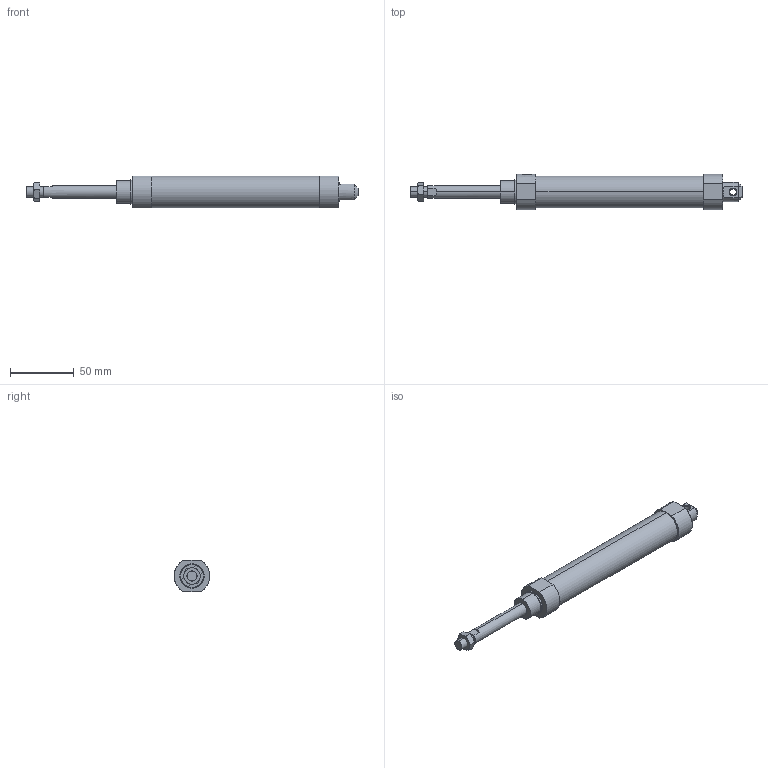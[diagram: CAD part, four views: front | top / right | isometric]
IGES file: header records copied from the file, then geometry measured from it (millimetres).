
Start section: SolidWorks IGES file using analytic representation for surfaces
Global section: file name: C:\Users\Toshiba\Desktop\J#0-20-50-C.IGS; native system: SolidWorks 2014; preprocessor: SolidWorks 2014; author: Toshiba; date: 160308.142815; units: millimetre
Bounding box: 261 x 28 x 25 mm (x, y, z)
Surface area: 18870 mm2 (no closed solid volume)
Topology: 0 solids, 0 shells, 75 faces, 1178 edges, 1178 vertices
Faces by surface type: bspline 47, revolution 28
